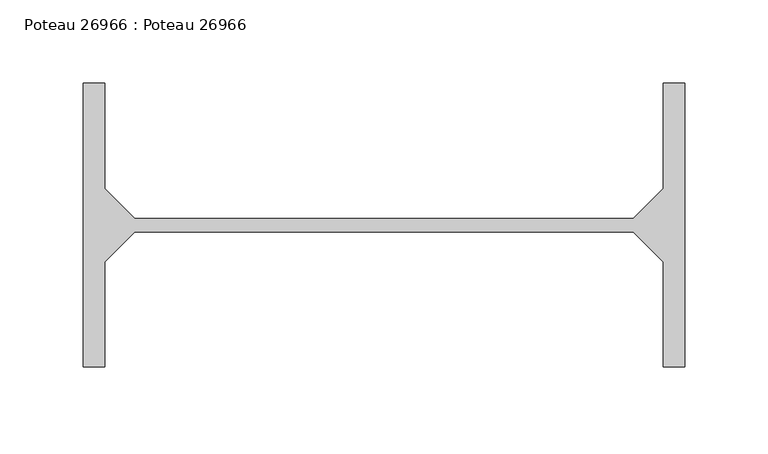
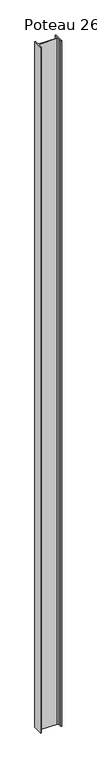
"""IFC4 building model written with IfcOpenShell, lengths in millimetres: beam geometry, Poteau 26966 : Poteau 26966."""

from ifc_helpers import new_model, si_unit, frame, origin, place, context, project, spatial, polyline, outline, extrude, source, transform, mapped, element, save


def poteau_26966_poteau_26966_e5a824e5(model_context):
    return source(origin(), model_context, "Body", "SweptSolid", [
        extrude(outline(polyline([(149.2999999, -12796.0), (167.2999999, -12778.0), (167.2999999, -12715.0), (179.9999999, -12715.0), (179.9999999, -12885.0), (167.2999999, -12885.0), (167.2999999, -12822.0), (149.2999999, -12804.0), (-149.3000001, -12804.0), (-167.3000001, -12822.0), (-167.3000001, -12885.0), (-180.0000001, -12885.0), (-180.0000001, -12715.0), (-167.3000001, -12715.0), (-167.3000001, -12778.0), (-149.3000001, -12796.0), (149.2999999, -12796.0)])), frame((0.0, 0.0, -250.0), z_axis=(0.0, 0.0, 1.0), x_axis=(1.0, 0.0, 0.0)), (0.0, 0.0, 1.0), 12420.258392),
    ])


if __name__ == "__main__":
    model = new_model("IFC4")
    model_context = context("Model", 3, world=origin())
    ifc_project = project(units=[si_unit("LENGTHUNIT", "METRE", prefix="MILLI")], contexts=[model_context])
    site = spatial("IfcSite", under=ifc_project)
    building = spatial("IfcBuilding", under=site)
    placement = place(None, origin())
    poteau_26966_poteau_26966_shape = poteau_26966_poteau_26966_e5a824e5(model_context)
    element("IfcBeam", 1, ObjectType="Poteau 26966 : Poteau 26966", at=placement, inside=building, context=model_context, shape_type="MappedRepresentation", body=[
        mapped(poteau_26966_poteau_26966_shape, transform((0.0, 0.0, 0.0), x_axis=(1.0, 0.0, 0.0), y_axis=(0.0, 1.0, 0.0), z_axis=(0.0, 0.0, 1.0))),
    ])
    save(model, "model.ifc")
